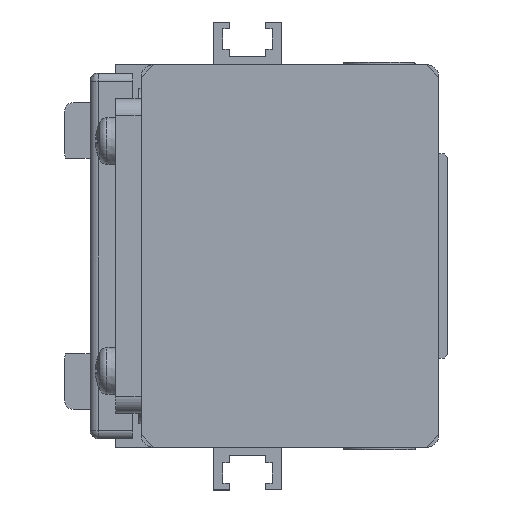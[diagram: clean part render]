
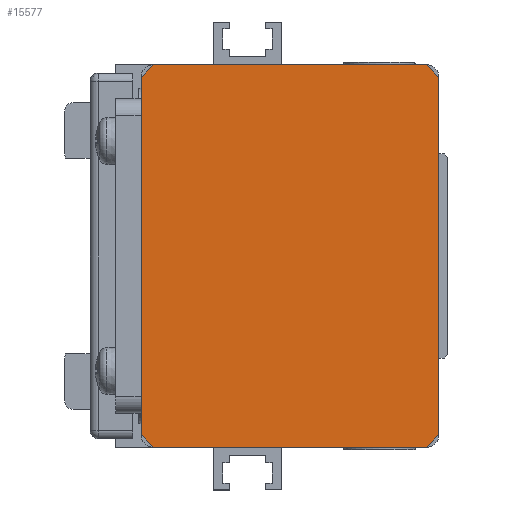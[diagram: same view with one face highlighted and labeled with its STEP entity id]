
A CAD part, left-side view. The second image highlights one B-rep face of the part: STEP entity #15577.
In plain terms, the highlighted planar face has unit normal (-1, 0, 0) as drawn and (0, 0, -1) by its records, which use the part's own axes.
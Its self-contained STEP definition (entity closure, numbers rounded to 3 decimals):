
#654=LINE('',#22491,#2020);
#656=LINE('',#22496,#2022);
#657=LINE('',#22498,#2023);
#658=LINE('',#22500,#2024);
#659=LINE('',#22501,#2025);
#660=LINE('',#22503,#2026);
#661=LINE('',#22505,#2027);
#662=LINE('',#22506,#2028);
#2020=VECTOR('',#18120,2.121);
#2022=VECTOR('',#18124,2.121);
#2023=VECTOR('',#18125,32.);
#2024=VECTOR('',#18126,2.121);
#2025=VECTOR('',#18127,42.);
#2026=VECTOR('',#18128,32.);
#2027=VECTOR('',#18129,2.121);
#2028=VECTOR('',#18130,42.);
#3672=PLANE('',#16596);
#4331=FACE_OUTER_BOUND('',#5279,.T.);
#5279=EDGE_LOOP('',(#10851,#10852,#10853,#10854,#10855,#10856,#10857,#10858));
#6817=VERTEX_POINT('',#22488);
#6818=VERTEX_POINT('',#22490);
#6819=VERTEX_POINT('',#22494);
#6820=VERTEX_POINT('',#22495);
#6821=VERTEX_POINT('',#22497);
#6822=VERTEX_POINT('',#22499);
#6823=VERTEX_POINT('',#22502);
#6824=VERTEX_POINT('',#22504);
#8426=EDGE_CURVE('',#6817,#6818,#654,.T.);
#8428=EDGE_CURVE('',#6819,#6820,#656,.T.);
#8429=EDGE_CURVE('',#6819,#6821,#657,.T.);
#8430=EDGE_CURVE('',#6822,#6821,#658,.T.);
#8431=EDGE_CURVE('',#6822,#6818,#659,.T.);
#8432=EDGE_CURVE('',#6817,#6823,#660,.T.);
#8433=EDGE_CURVE('',#6824,#6823,#661,.T.);
#8434=EDGE_CURVE('',#6824,#6820,#662,.T.);
#10851=ORIENTED_EDGE('',*,*,#8428,.F.);
#10852=ORIENTED_EDGE('',*,*,#8429,.T.);
#10853=ORIENTED_EDGE('',*,*,#8430,.F.);
#10854=ORIENTED_EDGE('',*,*,#8431,.T.);
#10855=ORIENTED_EDGE('',*,*,#8426,.F.);
#10856=ORIENTED_EDGE('',*,*,#8432,.T.);
#10857=ORIENTED_EDGE('',*,*,#8433,.F.);
#10858=ORIENTED_EDGE('',*,*,#8434,.T.);
#15577=ADVANCED_FACE('',(#4331),#3672,.F.);
#16596=AXIS2_PLACEMENT_3D('',#22493,#18122,#18123);
#18120=DIRECTION('',(-0.707,0.707,0.));
#18122=DIRECTION('center_axis',(0.,0.,1.));
#18123=DIRECTION('ref_axis',(1.,0.,0.));
#18124=DIRECTION('',(0.707,-0.707,0.));
#18125=DIRECTION('',(0.,1.,0.));
#18126=DIRECTION('',(-0.707,-0.707,0.));
#18127=DIRECTION('',(1.,0.,0.));
#18128=DIRECTION('',(0.,-1.,0.));
#18129=DIRECTION('',(0.707,0.707,0.));
#18130=DIRECTION('',(-1.,0.,0.));
#22488=CARTESIAN_POINT('',(50.,34.5,-227.));
#22490=CARTESIAN_POINT('',(48.5,36.,-227.));
#22491=CARTESIAN_POINT('',(50.,34.5,-227.));
#22493=CARTESIAN_POINT('Origin',(27.5,18.5,-227.));
#22494=CARTESIAN_POINT('',(5.,2.5,-227.));
#22495=CARTESIAN_POINT('',(6.5,1.,-227.));
#22496=CARTESIAN_POINT('',(5.,2.5,-227.));
#22497=CARTESIAN_POINT('',(5.,34.5,-227.));
#22498=CARTESIAN_POINT('',(5.,2.5,-227.));
#22499=CARTESIAN_POINT('',(6.5,36.,-227.));
#22500=CARTESIAN_POINT('',(6.5,36.,-227.));
#22501=CARTESIAN_POINT('',(6.5,36.,-227.));
#22502=CARTESIAN_POINT('',(50.,2.5,-227.));
#22503=CARTESIAN_POINT('',(50.,34.5,-227.));
#22504=CARTESIAN_POINT('',(48.5,1.,-227.));
#22505=CARTESIAN_POINT('',(48.5,1.,-227.));
#22506=CARTESIAN_POINT('',(48.5,1.,-227.));
